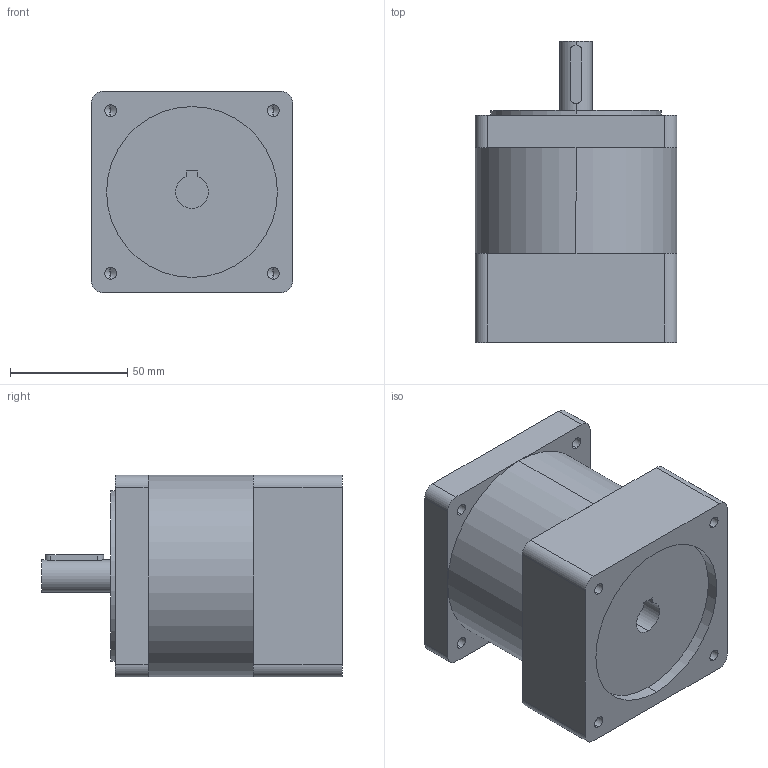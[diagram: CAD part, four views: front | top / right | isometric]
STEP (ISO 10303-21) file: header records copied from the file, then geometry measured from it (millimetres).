
FILE_DESCRIPTION (( 'STEP AP214' ), '1' );
FILE_NAME ('86PLF熬厒儂邧撰.STEP', '2021-02-22T08:22:02', ( 'wimxt.com' ), ( 'wimxt.com' ), 'SwSTEP 2.0', 'SolidWorks 2014', '' );
FILE_SCHEMA (( 'AUTOMOTIVE_DESIGN' ));
Length unit declared in the file: millimetre
Products named in the file (1): 86PLF熬厒儂邧撰
Bounding box: 86 x 128.5 x 86 mm (x, y, z)
Volume: 629520.1 mm3; surface area: 54003 mm2
Topology: 1 solids, 1 shells, 76 faces, 188 edges, 113 vertices
Faces by surface type: cylinder 38, plane 28, cone 10
Entity records: 2490 total; most frequent: CARTESIAN_POINT 434, DIRECTION 406, ORIENTED_EDGE 356, EDGE_CURVE 178, AXIS2_PLACEMENT_3D 155, VERTEX_POINT 113, VECTOR 96, LINE 96
